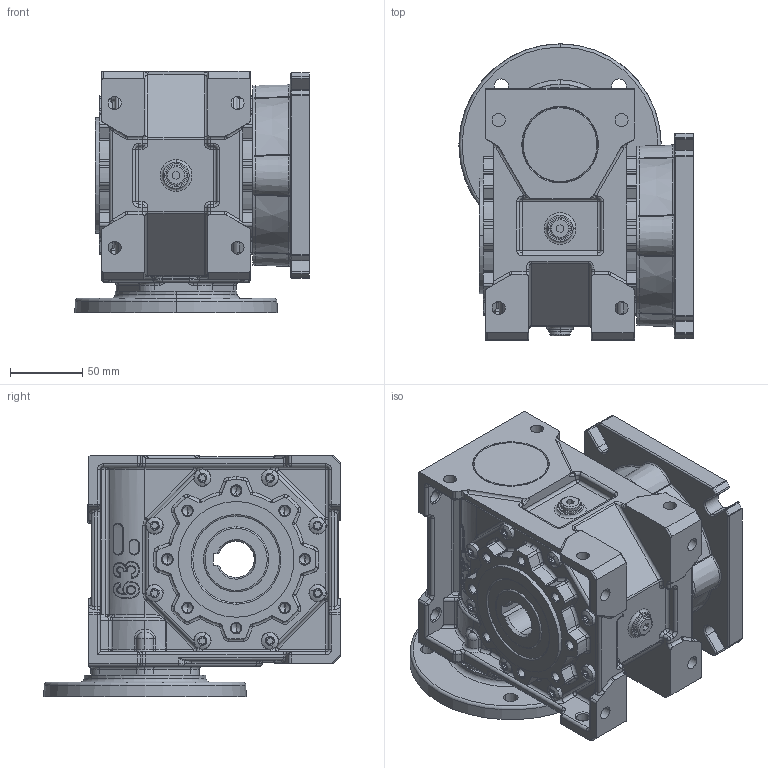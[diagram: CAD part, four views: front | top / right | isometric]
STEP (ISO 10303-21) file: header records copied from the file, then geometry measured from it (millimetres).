
FILE_DESCRIPTION (( 'STEP AP214' ), '1' );
FILE_NAME ('MKT63-FFL-71-115.STEP', '2006-05-09T06:18:40', ( '' ), ( '' ), 'SwSTEP 2.0', 'SolidWorks 2004146', '' );
FILE_SCHEMA (( 'AUTOMOTIVE_DESIGN' ));
Length unit declared in the file: millimetre
Products named in the file (6): D6912_Šroub DIN 6912 - M8x25; D6912_Šroub DIN 6912 - M6x25; Skrin MKT63_MKT63 AP71; MKT63-FFL-71-115; Pøíruba FF MKT 63_odlitek; Pøíruba MRT80 kulatá _95-115-140
Assembly tree (13 placements, depth 2):
  MKT63-FFL-71-115
    D6912_Šroub DIN 6912 - M8x25  x4
    D6912_Šroub DIN 6912 - M6x25  x6
    Skrin MKT63_MKT63 AP71
    Pøíruba FF MKT 63_odlitek
    Pøíruba MRT80 kulatá _95-115-140
Bounding box: 162 x 205 x 167 mm (x, y, z)
Volume: 2303095.9 mm3; surface area: 294707.5 mm2
Topology: 13 solids, 13 shells, 2565 faces, 6025 edges, 3477 vertices
Faces by surface type: cylinder 975, plane 485, torus 444, cone 282, bspline 223, sphere 156
Entity records: 203119 total; most frequent: CARTESIAN_POINT 146727, DIRECTION 11753, ORIENTED_EDGE 10716, EDGE_CURVE 5358, AXIS2_PLACEMENT_3D 4950, VERTEX_POINT 3205, CIRCLE 2888, EDGE_LOOP 2437
